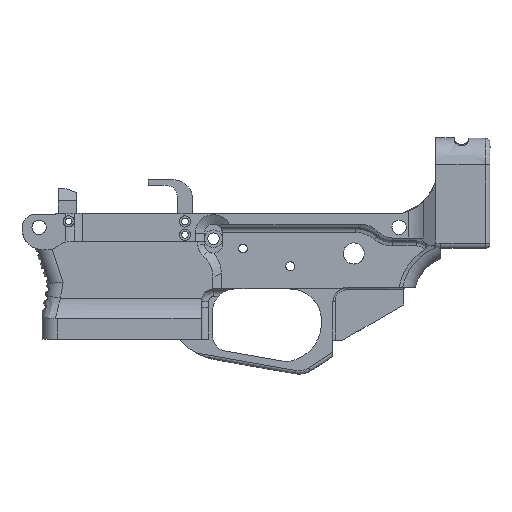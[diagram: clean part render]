
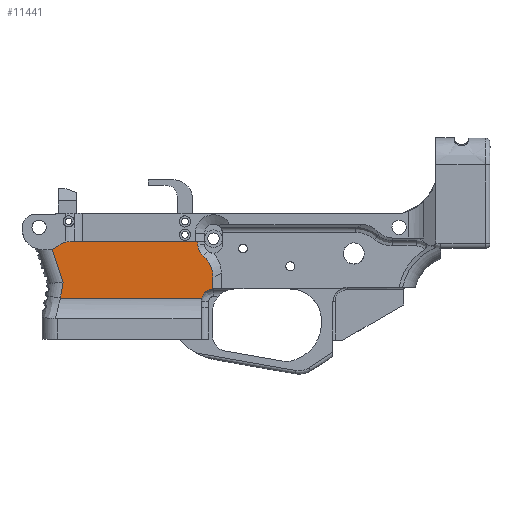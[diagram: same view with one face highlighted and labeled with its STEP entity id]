
A CAD part, left-side view. The second image highlights one B-rep face of the part: STEP entity #11441.
In plain terms, the highlighted planar face has unit normal (-1, 0, 0) as drawn and (1, 0, 0) by its records, which use the part's own axes.
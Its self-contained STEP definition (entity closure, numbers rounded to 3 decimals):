
#384=PLANE('',#12284);
#644=CIRCLE('',#12169,8.);
#645=CIRCLE('',#12172,8.);
#647=CIRCLE('',#12177,7.039);
#694=CIRCLE('',#12285,5.5);
#1249=FACE_OUTER_BOUND('',#1900,.T.);
#1900=EDGE_LOOP('',(#10029,#10030,#10031,#10032,#10033,#10034,#10035,#10036,
#10037,#10038,#10039,#10040,#10041));
#2625=B_SPLINE_CURVE_WITH_KNOTS('',3,(#38352,#38353,#38354,#38355,#38356,
#38357,#38358,#38359),.UNSPECIFIED.,.F.,.F.,(4,2,2,4),(0.,0.509,
0.8,1.095),.UNSPECIFIED.);
#3208=LINE('',#38035,#4000);
#3210=LINE('',#38046,#4002);
#3213=LINE('',#38054,#4005);
#3215=LINE('',#38058,#4007);
#3217=LINE('',#38072,#4009);
#3298=LINE('',#38847,#4090);
#3299=LINE('',#38852,#4091);
#3300=LINE('',#38853,#4092);
#4000=VECTOR('',#14143,10.);
#4002=VECTOR('',#14151,10.);
#4005=VECTOR('',#14160,10.);
#4007=VECTOR('',#14164,10.);
#4009=VECTOR('',#14176,10.);
#4090=VECTOR('',#14465,14.);
#4091=VECTOR('',#14470,10.);
#4092=VECTOR('',#14471,10.);
#5145=VERTEX_POINT('',#38032);
#5146=VERTEX_POINT('',#38034);
#5147=VERTEX_POINT('',#38041);
#5148=VERTEX_POINT('',#38045);
#5149=VERTEX_POINT('',#38049);
#5150=VERTEX_POINT('',#38053);
#5151=VERTEX_POINT('',#38057);
#5153=VERTEX_POINT('',#38062);
#5154=VERTEX_POINT('',#38070);
#5186=VERTEX_POINT('',#38351);
#5249=VERTEX_POINT('',#38842);
#5250=VERTEX_POINT('',#38849);
#5251=VERTEX_POINT('',#38851);
#6721=EDGE_CURVE('',#5146,#5145,#3208,.T.);
#6723=EDGE_CURVE('',#5146,#5147,#644,.F.);
#6725=EDGE_CURVE('',#5148,#5147,#3210,.T.);
#6727=EDGE_CURVE('',#5149,#5148,#645,.T.);
#6729=EDGE_CURVE('',#5150,#5149,#3213,.T.);
#6731=EDGE_CURVE('',#5150,#5151,#3215,.T.);
#6735=EDGE_CURVE('',#5151,#5153,#647,.T.);
#6737=EDGE_CURVE('',#5154,#5145,#3217,.T.);
#6793=EDGE_CURVE('',#5153,#5186,#2625,.T.);
#6898=EDGE_CURVE('',#5249,#5154,#3298,.T.);
#6899=EDGE_CURVE('',#5249,#5250,#694,.F.);
#6900=EDGE_CURVE('',#5250,#5251,#3299,.F.);
#6901=EDGE_CURVE('',#5186,#5251,#3300,.F.);
#10029=ORIENTED_EDGE('',*,*,#6737,.F.);
#10030=ORIENTED_EDGE('',*,*,#6898,.F.);
#10031=ORIENTED_EDGE('',*,*,#6899,.T.);
#10032=ORIENTED_EDGE('',*,*,#6900,.T.);
#10033=ORIENTED_EDGE('',*,*,#6901,.F.);
#10034=ORIENTED_EDGE('',*,*,#6793,.F.);
#10035=ORIENTED_EDGE('',*,*,#6735,.F.);
#10036=ORIENTED_EDGE('',*,*,#6731,.F.);
#10037=ORIENTED_EDGE('',*,*,#6729,.T.);
#10038=ORIENTED_EDGE('',*,*,#6727,.T.);
#10039=ORIENTED_EDGE('',*,*,#6725,.T.);
#10040=ORIENTED_EDGE('',*,*,#6723,.F.);
#10041=ORIENTED_EDGE('',*,*,#6721,.T.);
#11441=ADVANCED_FACE('',(#1249),#384,.T.);
#12169=AXIS2_PLACEMENT_3D('',#38042,#14146,#14147);
#12172=AXIS2_PLACEMENT_3D('',#38050,#14155,#14156);
#12177=AXIS2_PLACEMENT_3D('',#38068,#14170,#14171);
#12284=AXIS2_PLACEMENT_3D('',#38848,#14466,#14467);
#12285=AXIS2_PLACEMENT_3D('',#38850,#14468,#14469);
#14143=DIRECTION('',(0.,0.316,-0.949));
#14146=DIRECTION('center_axis',(-1.,0.,0.));
#14147=DIRECTION('ref_axis',(0.,0.995,0.105));
#14151=DIRECTION('',(0.,-0.828,-0.56));
#14155=DIRECTION('center_axis',(1.,0.,0.));
#14156=DIRECTION('ref_axis',(0.,-1.,0.));
#14160=DIRECTION('',(0.,-1.,0.));
#14164=DIRECTION('',(0.,0.,-1.));
#14170=DIRECTION('center_axis',(1.,0.,0.));
#14171=DIRECTION('ref_axis',(0.,-1.,0.));
#14176=DIRECTION('',(0.,0.164,0.987));
#14465=DIRECTION('',(0.,-1.,0.));
#14466=DIRECTION('center_axis',(1.,0.,0.));
#14467=DIRECTION('ref_axis',(0.,-1.,0.));
#14468=DIRECTION('center_axis',(1.,0.,0.));
#14469=DIRECTION('ref_axis',(0.,0.,1.));
#14470=DIRECTION('',(0.,1.,0.));
#14471=DIRECTION('',(0.,0.,1.));
#38032=CARTESIAN_POINT('',(15.24,-149.677,-70.681));
#38034=CARTESIAN_POINT('',(15.24,-154.667,-55.71));
#38035=CARTESIAN_POINT('',(15.24,-151.421,-65.448));
#38041=CARTESIAN_POINT('',(15.24,-152.507,-54.68));
#38042=CARTESIAN_POINT('Origin',(15.24,-156.991,-48.055));
#38045=CARTESIAN_POINT('',(15.24,-151.045,-53.691));
#38046=CARTESIAN_POINT('',(15.24,-159.066,-59.119));
#38049=CARTESIAN_POINT('',(15.24,-146.561,-52.316));
#38050=CARTESIAN_POINT('Origin',(15.24,-146.561,-60.316));
#38053=CARTESIAN_POINT('',(15.24,-89.057,-52.316));
#38054=CARTESIAN_POINT('',(15.24,-121.334,-52.316));
#38057=CARTESIAN_POINT('',(15.24,-89.057,-53.549));
#38058=CARTESIAN_POINT('',(15.24,-89.057,-57.56));
#38062=CARTESIAN_POINT('',(15.24,-86.644,-58.853));
#38068=CARTESIAN_POINT('Origin',(15.24,-82.018,-53.549));
#38070=CARTESIAN_POINT('',(15.24,-150.86,-77.81));
#38072=CARTESIAN_POINT('',(15.24,-147.179,-55.629));
#38351=CARTESIAN_POINT('',(15.24,-82.282,-68.446));
#38352=CARTESIAN_POINT('Ctrl Pts',(15.24,-86.644,-58.853));
#38353=CARTESIAN_POINT('Ctrl Pts',(15.24,-85.366,-59.969));
#38354=CARTESIAN_POINT('Ctrl Pts',(15.24,-84.316,-61.289));
#38355=CARTESIAN_POINT('Ctrl Pts',(15.24,-83.137,-63.675));
#38356=CARTESIAN_POINT('Ctrl Pts',(15.24,-82.816,-64.585));
#38357=CARTESIAN_POINT('Ctrl Pts',(15.24,-82.385,-66.487));
#38358=CARTESIAN_POINT('Ctrl Pts',(15.24,-82.282,-67.464));
#38359=CARTESIAN_POINT('Ctrl Pts',(15.24,-82.282,-68.446));
#38842=CARTESIAN_POINT('',(15.24,-87.435,-77.81));
#38847=CARTESIAN_POINT('',(15.24,-139.018,-77.81));
#38848=CARTESIAN_POINT('Origin',(15.24,-160.606,-66.575));
#38849=CARTESIAN_POINT('',(15.24,-82.101,-73.652));
#38850=CARTESIAN_POINT('Origin',(15.24,-82.101,-79.152));
#38851=CARTESIAN_POINT('',(15.24,-82.282,-73.652));
#38852=CARTESIAN_POINT('',(15.24,-132.745,-73.652));
#38853=CARTESIAN_POINT('',(15.24,-82.284,-34.342));
